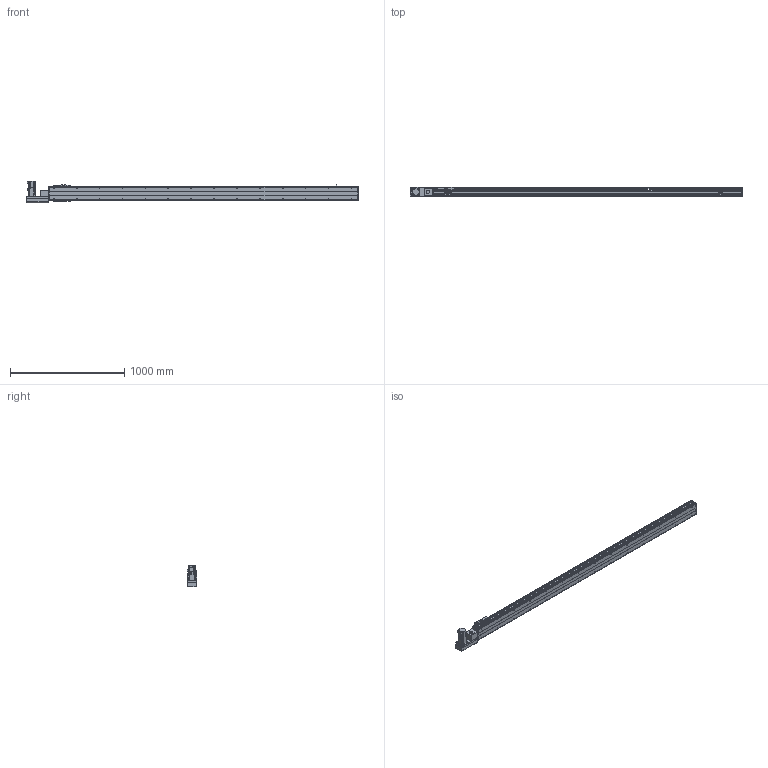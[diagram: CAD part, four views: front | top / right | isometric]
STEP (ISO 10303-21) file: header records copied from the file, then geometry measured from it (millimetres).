
FILE_DESCRIPTION( ( 'STEP AP214' ), '1' );
FILE_NAME( 'x:/temp/worker_26/temp/exporttempdir_3776_75_x1QO5/format_0/PBS120-P40-S2400-L-T40-C1-N(0).stp', '2022-06-05T00:28:59', ( 'License CC BY-ND 4.0' ), ( 'CADENAS' ), ' ', 'PARTsolutions', ' ' );
FILE_SCHEMA( ( 'AUTOMOTIVE_DESIGN { 1 0 10303 214 1 1 1 1 }' ) );
Length unit declared in the file: millimetre
Products named in the file (7): PBS120-P40-S2400-L-T40-C1-N(0); _PBS120-S2400()_body; _PBS120T-L_motors; _T40-p1; _PBS120_sliser; _PBS120_plant; _PBS120_sensor
Assembly tree (8 placements, depth 2):
  PBS120-P40-S2400-L-T40-C1-N(0)
    _PBS120-S2400()_body
    _PBS120T-L_motors
    _T40-p1
    _PBS120_sliser
    _PBS120_plant
    _PBS120_sensor  x3
Bounding box: 2901 x 83 x 189.7 mm (x, y, z)
Volume: 10518333.9 mm3; surface area: 2169084 mm2
Topology: 8 solids, 8 shells, 864 faces, 2216 edges, 1423 vertices
Faces by surface type: plane 561, cylinder 241, cone 60, torus 2
Full cylindrical faces by diameter (mm): 2.459 x6, 3.242 x4, 4 x2, 4.134 x4, 4.5 x10, 4.917 x32, 5.5 x11, 6 x2, 6.6 x1, 7 x2, 8.5 x4, 9 x4, 12 x1, 14 x1, 30 x2, 40 x1, 50 x2
Entity records: 28332 total; most frequent: DIRECTION 3884, CARTESIAN_POINT 3785, ORIENTED_EDGE 3574, EDGE_CURVE 1787, AXIS2_PLACEMENT_3D 1328, VERTEX_POINT 1229, LINE 1228, VECTOR 1228
